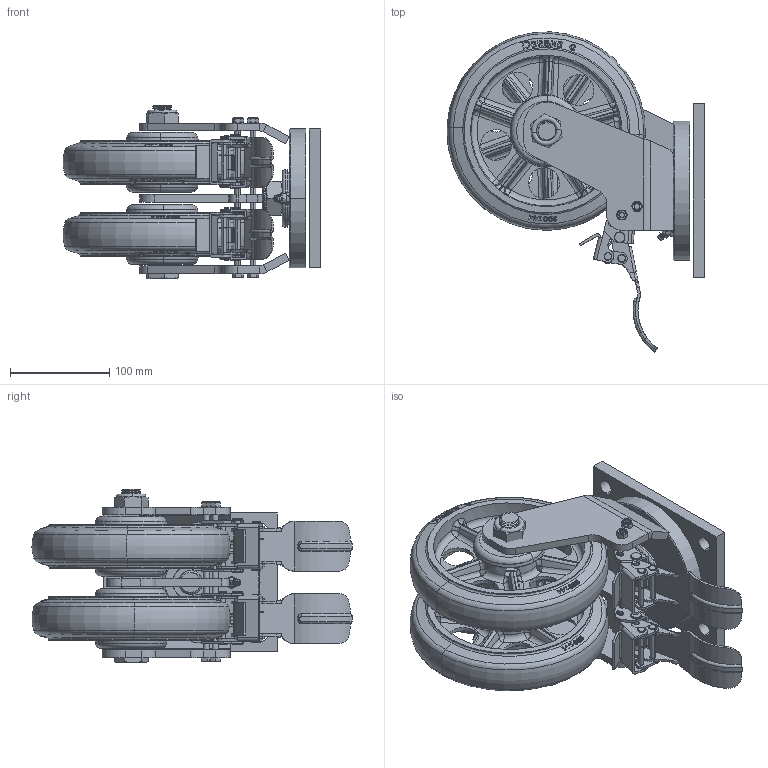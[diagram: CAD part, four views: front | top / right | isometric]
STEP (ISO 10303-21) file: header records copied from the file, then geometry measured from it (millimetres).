
FILE_DESCRIPTION((''),'2;1');
FILE_NAME('PRT0002','2025-05-09T10:34:37',('Administrator'),(''),'CREO PARAMETRIC BY PTC INC, 2022124','CREO PARAMETRIC BY PTC INC, 2022124','');
FILE_SCHEMA(('AP203_CONFIGURATION_CONTROLLED_3D_DESIGN_OF_MECHANICAL_PARTS_AND_ASSEMBLIES_MIM_LF { 1 0 10303 403 2 1 2 }'));
Products named in the file (1): PRT0002
Bounding box: 259.95 x 322.67 x 175 mm (x, y, z)
Surface area: 443090.1 mm2 (no closed solid volume)
Topology: 0 solids, 140 shells, 1064 faces, 4392 edges, 3351 vertices
Faces by surface type: bspline 340, plane 325, cylinder 194, torus 118, cone 87
Entity records: 90907 total; most frequent: CARTESIAN_POINT 52304, ORIENTED_EDGE 6405, DIRECTION 4937, EDGE_CURVE 4390, VERTEX_POINT 3351, B_SPLINE_CURVE_WITH_KNOTS 2055, AXIS2_PLACEMENT_3D 1865, EDGE_LOOP 1272
